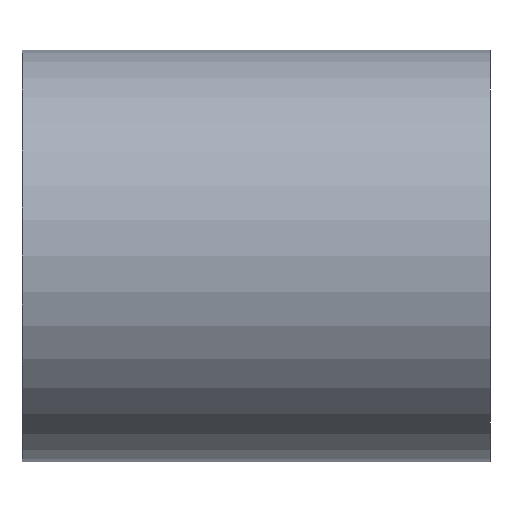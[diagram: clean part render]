
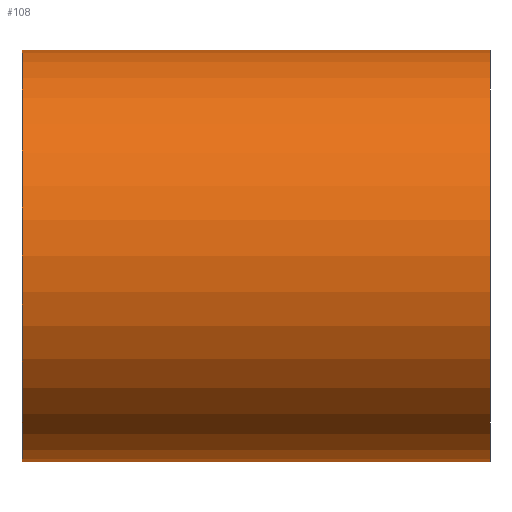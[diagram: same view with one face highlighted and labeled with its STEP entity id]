
A CAD part, front view. The second image highlights one B-rep face of the part: STEP entity #108.
In plain terms, the highlighted cylindrical face has radius 330 mm (diameter 660 mm), a partial arc.
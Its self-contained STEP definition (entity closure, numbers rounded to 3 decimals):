
#108=ADVANCED_FACE('',(#212),#213,.T.);
#212=FACE_OUTER_BOUND('',#335,.T.);
#213=CYLINDRICAL_SURFACE('',#336,330.0);
#335=EDGE_LOOP('',(#587,#588,#589,#590));
#336=AXIS2_PLACEMENT_3D('',#591,#592,#593);
#587=ORIENTED_EDGE('',*,*,#659,.T.);
#588=ORIENTED_EDGE('',*,*,#768,.F.);
#589=ORIENTED_EDGE('',*,*,#661,.T.);
#590=ORIENTED_EDGE('',*,*,#769,.F.);
#591=CARTESIAN_POINT('',(0.0,0.0,0.0));
#592=DIRECTION('',(1.0,0.0,0.0));
#593=DIRECTION('',(0.0,0.0,-1.0));
#659=EDGE_CURVE('',#773,#774,#775,.T.);
#661=EDGE_CURVE('',#778,#776,#779,.T.);
#768=EDGE_CURVE('',#778,#774,#938,.T.);
#769=EDGE_CURVE('',#773,#776,#939,.T.);
#773=VERTEX_POINT('',#943);
#774=VERTEX_POINT('',#944);
#775=LINE('',#945,#946);
#776=VERTEX_POINT('',#947);
#778=VERTEX_POINT('',#949);
#779=LINE('',#950,#951);
#938=CIRCLE('',#1136,330.0);
#939=CIRCLE('',#1137,330.0);
#943=CARTESIAN_POINT('',(-375.0,0.0,-330.0));
#944=CARTESIAN_POINT('',(375.0,0.0,-330.0));
#945=CARTESIAN_POINT('',(0.0,0.,-330.0));
#946=VECTOR('',#1140,1.0);
#947=CARTESIAN_POINT('',(-375.0,0.,330.0));
#949=CARTESIAN_POINT('',(375.0,0.,330.0));
#950=CARTESIAN_POINT('',(0.0,0.,330.0));
#951=VECTOR('',#1144,1.0);
#1136=AXIS2_PLACEMENT_3D('',#1330,#1331,#1332);
#1137=AXIS2_PLACEMENT_3D('',#1333,#1334,#1335);
#1140=DIRECTION('',(1.0,0.0,0.0));
#1144=DIRECTION('',(-1.0,-0.0,-0.0));
#1330=CARTESIAN_POINT('',(375.0,0.0,0.0));
#1331=DIRECTION('',(1.0,0.0,0.0));
#1332=DIRECTION('',(0.0,0.0,-1.0));
#1333=CARTESIAN_POINT('',(-375.0,0.0,0.0));
#1334=DIRECTION('',(-1.0,0.0,0.0));
#1335=DIRECTION('',(0.0,0.0,-1.0));
